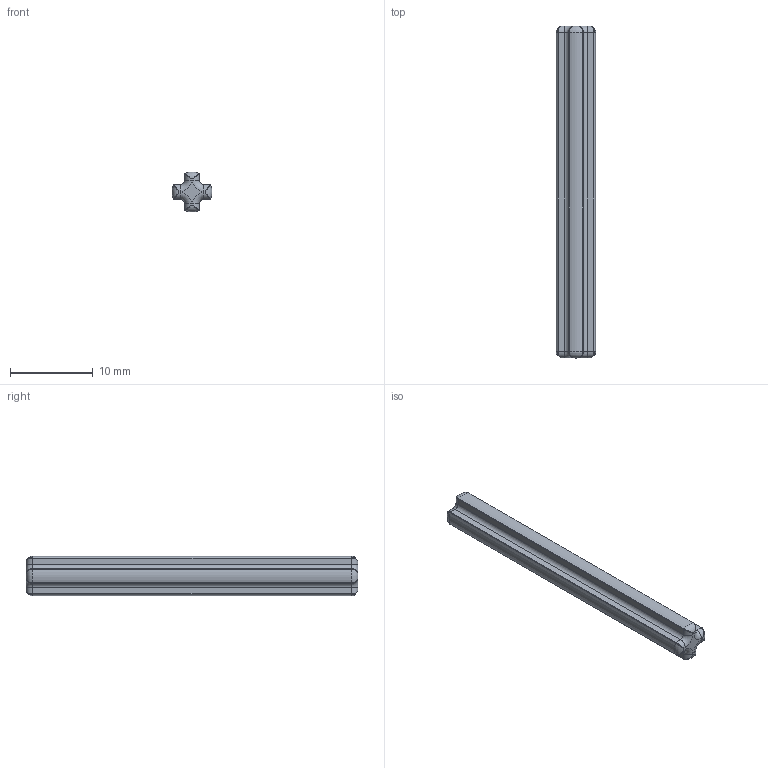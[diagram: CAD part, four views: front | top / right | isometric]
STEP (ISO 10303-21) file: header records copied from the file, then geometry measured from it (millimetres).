
FILE_DESCRIPTION(/* description */ ('Unknown'),/* implementation_level */ '2;1');
FILE_NAME(/* name */ 'ClGray_4211639_JCA',/* time_stamp */ '2025-07-21T23:52:06+02:00',/* author */ ('Unknown'),/* organization */ ('Unknown'),/* preprocessor_version */ 'ST-DEVELOPER v19.4',/* originating_system */ 'Solid Edge',/* authorisation */ 'Unknown');
FILE_SCHEMA (('AUTOMOTIVE_DESIGN {1 0 10303 214 3 1 1}'));
Length unit declared in the file: millimetre
Products named in the file (1): ClGray_4211639_JCA
Bounding box: 4.79 x 40 x 4.79 mm (x, y, z)
Volume: 549 mm3; surface area: 694.7 mm2
Topology: 1 solids, 1 shells, 74 faces, 168 edges, 80 vertices
Faces by surface type: cylinder 32, torus 16, bspline 16, plane 10
Entity records: 2142 total; most frequent: CARTESIAN_POINT 659, ORIENTED_EDGE 304, DIRECTION 302, EDGE_CURVE 152, AXIS2_PLACEMENT_3D 123, VERTEX_POINT 80, EDGE_LOOP 74, FACE_BOUND 74
